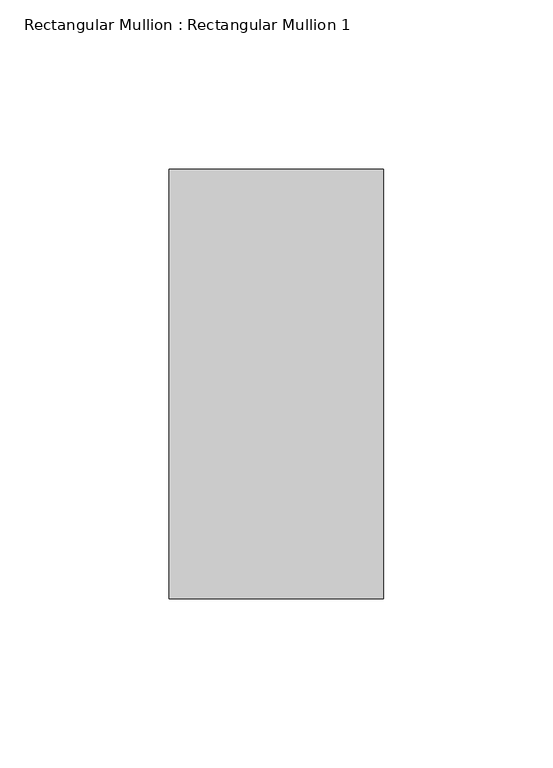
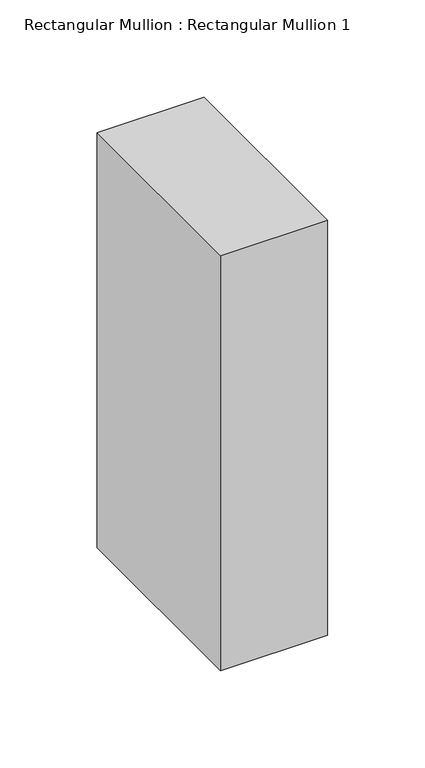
"""IFC4 building model written with IfcOpenShell, lengths in millimetres: member geometry, Rectangular Mullion : Rectangular Mullion 1."""

from ifc_helpers import new_model, si_unit, frame, origin, place, context, project, spatial, polyline, outline, extrude, source, transform, mapped, element, save


def rectangular_mullion_rectangular_mullion_1_be2dbdeb(model_context):
    return source(origin(), model_context, "Body", "SweptSolid", [
        extrude(outline(polyline([(31.75, 63.5), (31.75, -63.5), (-31.75, -63.5), (-31.75, 63.5), (31.75, 63.5)])), frame((0.0, 0.0, -260.35), z_axis=(0.0, 0.0, 1.0), x_axis=(1.0, 0.0, 0.0)), (0.0, 0.0, 1.0), 260.35),
    ])


if __name__ == "__main__":
    model = new_model("IFC4")
    model_context = context("Model", 3, world=origin())
    ifc_project = project(units=[si_unit("LENGTHUNIT", "METRE", prefix="MILLI")], contexts=[model_context])
    site = spatial("IfcSite", under=ifc_project)
    building = spatial("IfcBuilding", under=site)
    placement = place(None, origin())
    rectangular_mullion_rectangular_mullion_1_shape = rectangular_mullion_rectangular_mullion_1_be2dbdeb(model_context)
    element("IfcMember", 1, ObjectType="Rectangular Mullion : Rectangular Mullion 1", at=placement, inside=building, context=model_context, shape_type="MappedRepresentation", body=[
        mapped(rectangular_mullion_rectangular_mullion_1_shape, transform((0.0, 0.0, 0.0), x_axis=(1.0, 0.0, 0.0), y_axis=(0.0, 1.0, 0.0), z_axis=(0.0, 0.0, 1.0))),
    ])
    save(model, "model.ifc")
